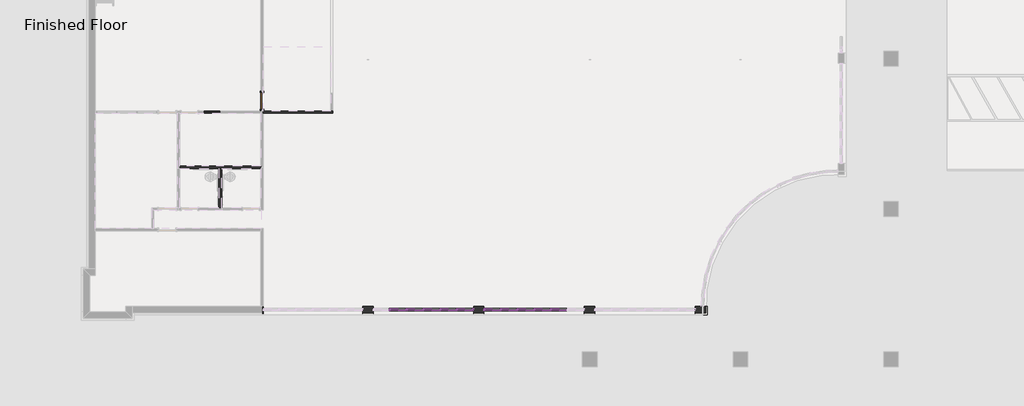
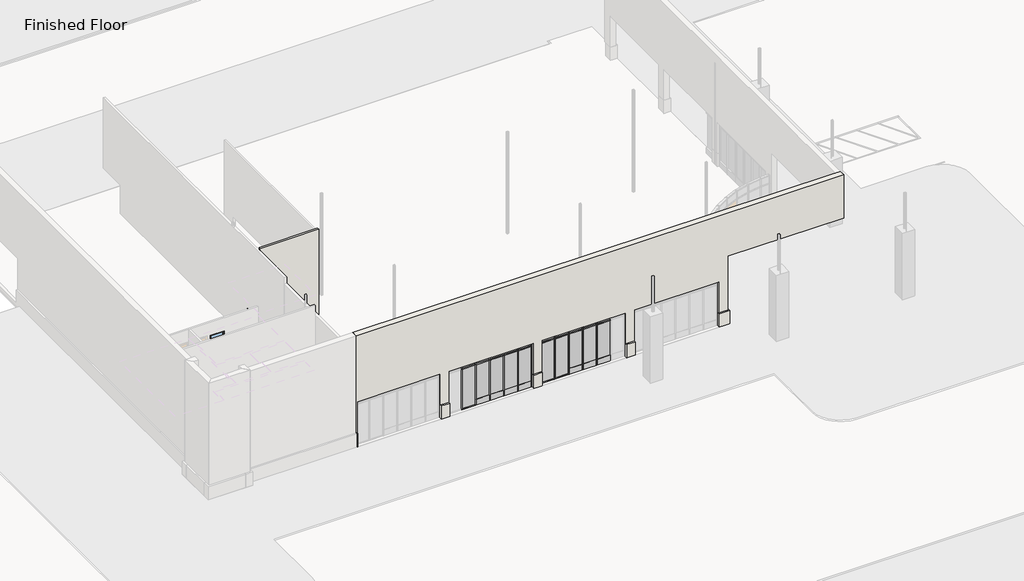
# One storey, part 2 of 7: 52 members, 20 plates, 5 walls, 1 door, 1 window.
"""IFC4 building model written with IfcOpenShell, lengths in millimetres."""

from ifc_helpers import new_model, si_unit, point, frame, origin, origin_with_axes, place, context, project, spatial, polyline, circle_curve, ellipse_curve, trimmed, outline, extrude, faceted_brep, transform, mapped, element, save
from ifc_brep_helpers import plane_surface, revolved_surface, advanced_brep
from components import door_9814c99b, member_d2e7e466, member_7db1855a, member_069002c8, member_a75f139a, member_8a16213d, member_a608d019, member_c17f1be2, member_ad567e07, rectangular_mullion_tall_mullion_dc5872ae, rectangular_mullion_tall_mullion_643de06f, system_panel_glazed_00e77426, system_panel_glazed_d5ca8191, system_panel_glazed_9d8b6f53, system_panel_glazed_0eb5479c, system_panel_glazed_0c1d7574, system_panel_glazed_61942ae4, window_51f22951

model = new_model("IFC4")

# Units and contexts
model_context = context("Model", 3, world=origin())
ifc_project = project(units=[si_unit("LENGTHUNIT", "METRE", prefix="MILLI")], contexts=[model_context])

# Site, building, storey
site = spatial("IfcSite", under=ifc_project)
building = spatial("IfcBuilding", under=site)
storey = spatial("IfcBuildingStorey", under=building, Name="Finished Floor", Elevation=0.0)

# Door
placement = place(None, origin())
door_shape = door_9814c99b(model_context)
element("IfcDoor", 1, ObjectType="Single-Flush : 36\" x 84\" 20Min", at=placement, inside=storey, context=model_context, shape_type="MappedRepresentation", body=[
    mapped(door_shape, transform((-12953.2102721, -2830.0875557, 0.0), x_axis=(0.0, -1.0, 0.0), y_axis=(1.0, 0.0, 0.0), z_axis=(0.0, 0.0, 1.0))),
])

# Members
member_shape = member_d2e7e466(model_context)
element("IfcMember", 2, ObjectType="Rectangular Mullion : 2.5\" x 5\" rectangular", at=placement, inside=storey, context=model_context, shape_type="MappedRepresentation", body=[
    mapped(member_shape, transform((2836.0647279, -14230.7188057, 3048.0), x_axis=(0.0, 0.0, 1.0), y_axis=(0.0, 1.0, 0.0), z_axis=(-1.0, 0.0, 0.0))),
])
element("IfcMember", 3, ObjectType="Rectangular Mullion : 2.5\" x 5\" rectangular", at=placement, inside=storey, context=model_context, shape_type="MappedRepresentation", body=[
    mapped(member_shape, transform((1921.6647279, -14230.7188057, 3048.0), x_axis=(0.0, 0.0, 1.0), y_axis=(0.0, 1.0, 0.0), z_axis=(-1.0, 0.0, 0.0))),
])
element("IfcMember", 4, ObjectType="Rectangular Mullion : 2.5\" x 5\" rectangular", at=placement, inside=storey, context=model_context, shape_type="MappedRepresentation", body=[
    mapped(member_shape, transform((-3209.1352721, -14230.7188057, 3048.0), x_axis=(0.0, 0.0, 1.0), y_axis=(0.0, 1.0, 0.0), z_axis=(-1.0, 0.0, 0.0))),
])
element("IfcMember", 5, ObjectType="Rectangular Mullion : 2.5\" x 5\" rectangular", at=placement, inside=storey, context=model_context, shape_type="MappedRepresentation", body=[
    mapped(member_shape, transform((-4123.5352721, -14230.7188057, 3048.0), x_axis=(0.0, 0.0, 1.0), y_axis=(0.0, 1.0, 0.0), z_axis=(-1.0, 0.0, 0.0))),
])
element("IfcMember", 6, ObjectType="Rectangular Mullion : 2.5\" x 5\" rectangular", at=placement, inside=storey, context=model_context, shape_type="MappedRepresentation", body=[
    mapped(member_shape, transform((1007.2647279, -14230.7188057, 3048.0), x_axis=(0.0, 0.0, 1.0), y_axis=(0.0, 1.0, 0.0), z_axis=(-1.0, 0.0, 0.0))),
])
element("IfcMember", 7, ObjectType="Rectangular Mullion : 2.5\" x 5\" rectangular", at=placement, inside=storey, context=model_context, shape_type="MappedRepresentation", body=[
    mapped(member_shape, transform((92.8647279, -14230.7188057, 3048.0), x_axis=(0.0, 0.0, 1.0), y_axis=(0.0, 1.0, 0.0), z_axis=(-1.0, 0.0, 0.0))),
])
element("IfcMember", 8, ObjectType="Rectangular Mullion : 2.5\" x 5\" rectangular", at=placement, inside=storey, context=model_context, shape_type="MappedRepresentation", body=[
    mapped(member_shape, transform((-5037.9352721, -14230.7188057, 3048.0), x_axis=(0.0, 0.0, 1.0), y_axis=(0.0, 1.0, 0.0), z_axis=(-1.0, 0.0, 0.0))),
])
element("IfcMember", 9, ObjectType="Rectangular Mullion : 2.5\" x 5\" rectangular", at=placement, inside=storey, context=model_context, shape_type="MappedRepresentation", body=[
    mapped(member_shape, transform((-5952.3352721, -14230.7188057, 3048.0), x_axis=(0.0, 0.0, 1.0), y_axis=(0.0, 1.0, 0.0), z_axis=(-1.0, 0.0, 0.0))),
])
member_2_shape = member_7db1855a(model_context)
element("IfcMember", 10, ObjectType="Rectangular Mullion : 2.5\" x 5\" rectangular", at=placement, inside=storey, context=model_context, shape_type="MappedRepresentation", body=[
    mapped(member_2_shape, transform((2836.0647279, -14230.7188057, 2813.05), x_axis=(0.0, 0.0, 1.0), y_axis=(0.0, 1.0, 0.0), z_axis=(-1.0, 0.0, 0.0))),
])
element("IfcMember", 11, ObjectType="Rectangular Mullion : 2.5\" x 5\" rectangular", at=placement, inside=storey, context=model_context, shape_type="MappedRepresentation", body=[
    mapped(member_2_shape, transform((1921.6647279, -14230.7188057, 2813.05), x_axis=(0.0, 0.0, 1.0), y_axis=(0.0, 1.0, 0.0), z_axis=(-1.0, 0.0, 0.0))),
])
element("IfcMember", 12, ObjectType="Rectangular Mullion : 2.5\" x 5\" rectangular", at=placement, inside=storey, context=model_context, shape_type="MappedRepresentation", body=[
    mapped(member_2_shape, transform((1007.2647279, -14230.7188057, 2813.05), x_axis=(0.0, 0.0, 1.0), y_axis=(0.0, 1.0, 0.0), z_axis=(-1.0, 0.0, 0.0))),
])
element("IfcMember", 13, ObjectType="Rectangular Mullion : 2.5\" x 5\" rectangular", at=placement, inside=storey, context=model_context, shape_type="MappedRepresentation", body=[
    mapped(member_2_shape, transform((-3209.1352721, -14230.7188057, 2813.05), x_axis=(0.0, 0.0, 1.0), y_axis=(0.0, 1.0, 0.0), z_axis=(-1.0, 0.0, 0.0))),
])
element("IfcMember", 14, ObjectType="Rectangular Mullion : 2.5\" x 5\" rectangular", at=placement, inside=storey, context=model_context, shape_type="MappedRepresentation", body=[
    mapped(member_2_shape, transform((-4123.5352721, -14230.7188057, 2813.05), x_axis=(0.0, 0.0, 1.0), y_axis=(0.0, 1.0, 0.0), z_axis=(-1.0, 0.0, 0.0))),
])
element("IfcMember", 15, ObjectType="Rectangular Mullion : 2.5\" x 5\" rectangular", at=placement, inside=storey, context=model_context, shape_type="MappedRepresentation", body=[
    mapped(member_2_shape, transform((92.8647279, -14230.7188057, 2813.05), x_axis=(0.0, 0.0, 1.0), y_axis=(0.0, 1.0, 0.0), z_axis=(-1.0, 0.0, 0.0))),
])
element("IfcMember", 16, ObjectType="Rectangular Mullion : 2.5\" x 5\" rectangular", at=placement, inside=storey, context=model_context, shape_type="MappedRepresentation", body=[
    mapped(member_2_shape, transform((-5952.3352721, -14230.7188057, 2813.05), x_axis=(0.0, 0.0, 1.0), y_axis=(0.0, 1.0, 0.0), z_axis=(-1.0, 0.0, 0.0))),
])
element("IfcMember", 17, ObjectType="Rectangular Mullion : 2.5\" x 5\" rectangular", at=placement, inside=storey, context=model_context, shape_type="MappedRepresentation", body=[
    mapped(member_shape, transform((943.7647279, -14230.7188057, 0.0), x_axis=(0.0, 0.0, -1.0), y_axis=(0.0, 1.0, 0.0), z_axis=(1.0, 0.0, 0.0))),
])
element("IfcMember", 18, ObjectType="Rectangular Mullion : 2.5\" x 5\" rectangular", at=placement, inside=storey, context=model_context, shape_type="MappedRepresentation", body=[
    mapped(member_shape, transform((-5101.4352721, -14230.7188057, 0.0), x_axis=(0.0, 0.0, -1.0), y_axis=(0.0, 1.0, 0.0), z_axis=(1.0, 0.0, 0.0))),
])
member_3_shape = member_069002c8(model_context)
element("IfcMember", 19, ObjectType="Rectangular Mullion : 2.5\" x 5\" rectangular", at=placement, inside=storey, context=model_context, shape_type="MappedRepresentation", body=[
    mapped(member_3_shape, transform((2804.3147279, -14230.7188057, 0.0), x_axis=(-1.0, 0.0, 0.0), y_axis=(0.0, 1.0, 0.0), z_axis=(0.0, 0.0, -1.0))),
])
element("IfcMember", 20, ObjectType="Rectangular Mullion : 2.5\" x 5\" rectangular", at=placement, inside=storey, context=model_context, shape_type="MappedRepresentation", body=[
    mapped(member_3_shape, transform((1889.9147279, -14230.7188057, 0.0), x_axis=(-1.0, 0.0, 0.0), y_axis=(0.0, 1.0, 0.0), z_axis=(0.0, 0.0, -1.0))),
])
element("IfcMember", 21, ObjectType="Rectangular Mullion : 2.5\" x 5\" rectangular", at=placement, inside=storey, context=model_context, shape_type="MappedRepresentation", body=[
    mapped(member_3_shape, transform((-2326.4852721, -14230.7188057, 0.0), x_axis=(-1.0, 0.0, 0.0), y_axis=(0.0, 1.0, 0.0), z_axis=(0.0, 0.0, -1.0))),
])
element("IfcMember", 22, ObjectType="Rectangular Mullion : 2.5\" x 5\" rectangular", at=placement, inside=storey, context=model_context, shape_type="MappedRepresentation", body=[
    mapped(member_3_shape, transform((-3240.8852721, -14230.7188057, 0.0), x_axis=(-1.0, 0.0, 0.0), y_axis=(0.0, 1.0, 0.0), z_axis=(0.0, 0.0, -1.0))),
])
element("IfcMember", 23, ObjectType="Rectangular Mullion : 2.5\" x 5\" rectangular", at=placement, inside=storey, context=model_context, shape_type="MappedRepresentation", body=[
    mapped(member_3_shape, transform((-4155.2852721, -14230.7188057, 0.0), x_axis=(-1.0, 0.0, 0.0), y_axis=(0.0, 1.0, 0.0), z_axis=(0.0, 0.0, -1.0))),
])
element("IfcMember", 24, ObjectType="Rectangular Mullion : 2.5\" x 5\" rectangular", at=placement, inside=storey, context=model_context, shape_type="MappedRepresentation", body=[
    mapped(member_3_shape, transform((975.5147279, -14230.7188057, 0.0), x_axis=(-1.0, 0.0, 0.0), y_axis=(0.0, 1.0, 0.0), z_axis=(0.0, 0.0, -1.0))),
])
element("IfcMember", 25, ObjectType="Rectangular Mullion : 2.5\" x 5\" rectangular", at=placement, inside=storey, context=model_context, shape_type="MappedRepresentation", body=[
    mapped(member_3_shape, transform((61.1147279, -14230.7188057, 0.0), x_axis=(-1.0, 0.0, 0.0), y_axis=(0.0, 1.0, 0.0), z_axis=(0.0, 0.0, -1.0))),
])
element("IfcMember", 26, ObjectType="Rectangular Mullion : 2.5\" x 5\" rectangular", at=placement, inside=storey, context=model_context, shape_type="MappedRepresentation", body=[
    mapped(member_3_shape, transform((-5069.6852721, -14230.7188057, 0.0), x_axis=(-1.0, 0.0, 0.0), y_axis=(0.0, 1.0, 0.0), z_axis=(0.0, 0.0, -1.0))),
])
element("IfcMember", 27, ObjectType="Rectangular Mullion : 2.5\" x 5\" rectangular", at=placement, inside=storey, context=model_context, shape_type="MappedRepresentation", body=[
    mapped(member_3_shape, transform((-5984.0852721, -14230.7188057, 0.0), x_axis=(-1.0, 0.0, 0.0), y_axis=(0.0, 1.0, 0.0), z_axis=(0.0, 0.0, -1.0))),
])
member_4_shape = member_a75f139a(model_context)
element("IfcMember", 28, ObjectType="Rectangular Mullion : 2.5\" x 5\" rectangular", at=placement, inside=storey, context=model_context, shape_type="MappedRepresentation", body=[
    mapped(member_4_shape, transform((2804.3147279, -14230.7188057, 2813.05), x_axis=(-1.0, 0.0, 0.0), y_axis=(0.0, 1.0, 0.0), z_axis=(0.0, 0.0, -1.0))),
])
element("IfcMember", 29, ObjectType="Rectangular Mullion : 2.5\" x 5\" rectangular", at=placement, inside=storey, context=model_context, shape_type="MappedRepresentation", body=[
    mapped(member_4_shape, transform((1889.9147279, -14230.7188057, 2813.05), x_axis=(-1.0, 0.0, 0.0), y_axis=(0.0, 1.0, 0.0), z_axis=(0.0, 0.0, -1.0))),
])
element("IfcMember", 30, ObjectType="Rectangular Mullion : 2.5\" x 5\" rectangular", at=placement, inside=storey, context=model_context, shape_type="MappedRepresentation", body=[
    mapped(member_4_shape, transform((-2326.4852721, -14230.7188057, 2813.05), x_axis=(-1.0, 0.0, 0.0), y_axis=(0.0, 1.0, 0.0), z_axis=(0.0, 0.0, -1.0))),
])
element("IfcMember", 31, ObjectType="Rectangular Mullion : 2.5\" x 5\" rectangular", at=placement, inside=storey, context=model_context, shape_type="MappedRepresentation", body=[
    mapped(member_4_shape, transform((-3240.8852721, -14230.7188057, 2813.05), x_axis=(-1.0, 0.0, 0.0), y_axis=(0.0, 1.0, 0.0), z_axis=(0.0, 0.0, -1.0))),
])
element("IfcMember", 32, ObjectType="Rectangular Mullion : 2.5\" x 5\" rectangular", at=placement, inside=storey, context=model_context, shape_type="MappedRepresentation", body=[
    mapped(member_4_shape, transform((-4155.2852721, -14230.7188057, 2813.05), x_axis=(-1.0, 0.0, 0.0), y_axis=(0.0, 1.0, 0.0), z_axis=(0.0, 0.0, -1.0))),
])
element("IfcMember", 33, ObjectType="Rectangular Mullion : 2.5\" x 5\" rectangular", at=placement, inside=storey, context=model_context, shape_type="MappedRepresentation", body=[
    mapped(member_4_shape, transform((975.5147279, -14230.7188057, 2813.05), x_axis=(-1.0, 0.0, 0.0), y_axis=(0.0, 1.0, 0.0), z_axis=(0.0, 0.0, -1.0))),
])
element("IfcMember", 34, ObjectType="Rectangular Mullion : 2.5\" x 5\" rectangular", at=placement, inside=storey, context=model_context, shape_type="MappedRepresentation", body=[
    mapped(member_4_shape, transform((61.1147279, -14230.7188057, 2813.05), x_axis=(-1.0, 0.0, 0.0), y_axis=(0.0, 1.0, 0.0), z_axis=(0.0, 0.0, -1.0))),
])
element("IfcMember", 35, ObjectType="Rectangular Mullion : 2.5\" x 5\" rectangular", at=placement, inside=storey, context=model_context, shape_type="MappedRepresentation", body=[
    mapped(member_4_shape, transform((-5069.6852721, -14230.7188057, 2813.05), x_axis=(-1.0, 0.0, 0.0), y_axis=(0.0, 1.0, 0.0), z_axis=(0.0, 0.0, -1.0))),
])
element("IfcMember", 36, ObjectType="Rectangular Mullion : 2.5\" x 5\" rectangular", at=placement, inside=storey, context=model_context, shape_type="MappedRepresentation", body=[
    mapped(member_4_shape, transform((-5984.0852721, -14230.7188057, 2813.05), x_axis=(-1.0, 0.0, 0.0), y_axis=(0.0, 1.0, 0.0), z_axis=(0.0, 0.0, -1.0))),
])
member_5_shape = member_8a16213d(model_context)
element("IfcMember", 37, ObjectType="Rectangular Mullion : 2.5\" x 5\" rectangular", at=placement, inside=storey, context=model_context, shape_type="MappedRepresentation", body=[
    mapped(member_5_shape, transform((-853.2852721, -14230.7188057, 0.0), x_axis=(-1.0, 0.0, 0.0), y_axis=(0.0, 1.0, 0.0), z_axis=(0.0, 0.0, -1.0))),
])
member_6_shape = member_a608d019(model_context)
element("IfcMember", 38, ObjectType="Rectangular Mullion : 2.5\" x 5\" rectangular", at=placement, inside=storey, context=model_context, shape_type="MappedRepresentation", body=[
    mapped(member_6_shape, transform((-853.2852721, -14230.7188057, 2813.05), x_axis=(-1.0, 0.0, 0.0), y_axis=(0.0, 1.0, 0.0), z_axis=(0.0, 0.0, -1.0))),
])
element("IfcMember", 39, ObjectType="Rectangular Mullion : 2.5\" x 5\" rectangular", at=placement, inside=storey, context=model_context, shape_type="MappedRepresentation", body=[
    mapped(member_6_shape, transform((-1412.0852721, -14230.7188057, 3048.0), x_axis=(1.0, 0.0, 0.0), y_axis=(0.0, 1.0, 0.0), z_axis=(0.0, 0.0, 1.0))),
])
element("IfcMember", 40, ObjectType="Rectangular Mullion : 2.5\" x 5\" rectangular", at=placement, inside=storey, context=model_context, shape_type="MappedRepresentation", body=[
    mapped(member_5_shape, transform((-1412.0852721, -14230.7188057, 2813.05), x_axis=(1.0, 0.0, 0.0), y_axis=(0.0, 1.0, 0.0), z_axis=(0.0, 0.0, 1.0))),
])
member_7_shape = member_c17f1be2(model_context)
element("IfcMember", 41, ObjectType="Rectangular Mullion : 2.5\" x 5\" rectangular", at=placement, inside=storey, context=model_context, shape_type="MappedRepresentation", body=[
    mapped(member_7_shape, transform((-789.7852721, -14230.7188057, 3048.0), x_axis=(0.0, 0.0, 1.0), y_axis=(0.0, 1.0, 0.0), z_axis=(-1.0, 0.0, 0.0))),
])
element("IfcMember", 42, ObjectType="Rectangular Mullion : 2.5\" x 5\" rectangular", at=placement, inside=storey, context=model_context, shape_type="MappedRepresentation", body=[
    mapped(member_7_shape, transform((3750.4647279, -14230.7188057, 3048.0), x_axis=(0.0, 0.0, 1.0), y_axis=(0.0, 1.0, 0.0), z_axis=(-1.0, 0.0, 0.0))),
])
element("IfcMember", 43, ObjectType="Rectangular Mullion : 2.5\" x 5\" rectangular", at=placement, inside=storey, context=model_context, shape_type="MappedRepresentation", body=[
    mapped(member_7_shape, transform((-2294.7352721, -14230.7188057, 3048.0), x_axis=(0.0, 0.0, 1.0), y_axis=(0.0, 1.0, 0.0), z_axis=(-1.0, 0.0, 0.0))),
])
member_8_shape = member_ad567e07(model_context)
element("IfcMember", 44, ObjectType="Rectangular Mullion : 2.5\" x 5\" rectangular", at=placement, inside=storey, context=model_context, shape_type="MappedRepresentation", body=[
    mapped(member_8_shape, transform((-2294.7352721, -14230.7188057, 2813.05), x_axis=(0.0, 0.0, 1.0), y_axis=(0.0, 1.0, 0.0), z_axis=(-1.0, 0.0, 0.0))),
])
element("IfcMember", 45, ObjectType="Rectangular Mullion : 2.5\" x 5\" rectangular", at=placement, inside=storey, context=model_context, shape_type="MappedRepresentation", body=[
    mapped(member_8_shape, transform((-789.7852721, -14230.7188057, 2813.05), x_axis=(0.0, 0.0, 1.0), y_axis=(0.0, 1.0, 0.0), z_axis=(-1.0, 0.0, 0.0))),
])
element("IfcMember", 46, ObjectType="Rectangular Mullion : 2.5\" x 5\" rectangular", at=placement, inside=storey, context=model_context, shape_type="MappedRepresentation", body=[
    mapped(member_7_shape, transform((29.3647279, -14230.7188057, 0.0), x_axis=(0.0, 0.0, -1.0), y_axis=(0.0, 1.0, 0.0), z_axis=(1.0, 0.0, 0.0))),
])
rectangular_mullion_tall_mullion_shape = rectangular_mullion_tall_mullion_dc5872ae(model_context)
element("IfcMember", 47, ObjectType="Rectangular Mullion : Tall Mullion", at=placement, inside=storey, context=model_context, shape_type="MappedRepresentation", body=[
    mapped(rectangular_mullion_tall_mullion_shape, transform((3686.9647279, -14230.7188057, 0.0), x_axis=(0.0, 0.0, -1.0), y_axis=(0.0, 1.0, 0.0), z_axis=(1.0, 0.0, 0.0))),
])
element("IfcMember", 48, ObjectType="Rectangular Mullion : Tall Mullion", at=placement, inside=storey, context=model_context, shape_type="MappedRepresentation", body=[
    mapped(rectangular_mullion_tall_mullion_shape, transform((2772.5647279, -14230.7188057, 0.0), x_axis=(0.0, 0.0, -1.0), y_axis=(0.0, 1.0, 0.0), z_axis=(1.0, 0.0, 0.0))),
])
element("IfcMember", 49, ObjectType="Rectangular Mullion : Tall Mullion", at=placement, inside=storey, context=model_context, shape_type="MappedRepresentation", body=[
    mapped(rectangular_mullion_tall_mullion_shape, transform((1858.1647279, -14230.7188057, 0.0), x_axis=(0.0, 0.0, -1.0), y_axis=(0.0, 1.0, 0.0), z_axis=(1.0, 0.0, 0.0))),
])
element("IfcMember", 50, ObjectType="Rectangular Mullion : Tall Mullion", at=placement, inside=storey, context=model_context, shape_type="MappedRepresentation", body=[
    mapped(rectangular_mullion_tall_mullion_shape, transform((-2358.2352721, -14230.7188057, 0.0), x_axis=(0.0, 0.0, -1.0), y_axis=(0.0, 1.0, 0.0), z_axis=(1.0, 0.0, 0.0))),
])
element("IfcMember", 51, ObjectType="Rectangular Mullion : Tall Mullion", at=placement, inside=storey, context=model_context, shape_type="MappedRepresentation", body=[
    mapped(rectangular_mullion_tall_mullion_shape, transform((-3272.6352721, -14230.7188057, 0.0), x_axis=(0.0, 0.0, -1.0), y_axis=(0.0, 1.0, 0.0), z_axis=(1.0, 0.0, 0.0))),
])
element("IfcMember", 52, ObjectType="Rectangular Mullion : Tall Mullion", at=placement, inside=storey, context=model_context, shape_type="MappedRepresentation", body=[
    mapped(rectangular_mullion_tall_mullion_shape, transform((-4187.0352721, -14230.7188057, 0.0), x_axis=(0.0, 0.0, -1.0), y_axis=(0.0, 1.0, 0.0), z_axis=(1.0, 0.0, 0.0))),
])
rectangular_mullion_tall_mullion_2_shape = rectangular_mullion_tall_mullion_643de06f(model_context)
element("IfcMember", 53, ObjectType="Rectangular Mullion : Tall Mullion", at=placement, inside=storey, context=model_context, shape_type="MappedRepresentation", body=[
    mapped(rectangular_mullion_tall_mullion_2_shape, transform((-1475.5852721, -14230.7188057, 0.0), x_axis=(0.0, 0.0, -1.0), y_axis=(0.0, 1.0, 0.0), z_axis=(1.0, 0.0, 0.0))),
])

# Plates
system_panel_glazed_shape = system_panel_glazed_00e77426(model_context)
element("IfcPlate", 54, ObjectType="System Panel : Glazed", at=placement, inside=storey, context=model_context, shape_type="MappedRepresentation", body=[
    mapped(system_panel_glazed_shape, transform((3261.5147279, -14230.7188057, 406.4), x_axis=(-1.0, 0.0, 0.0), y_axis=(0.0, -1.0, 0.0), z_axis=(0.0, 0.0, 1.0))),
])
element("IfcPlate", 55, ObjectType="System Panel : Glazed", at=placement, inside=storey, context=model_context, shape_type="MappedRepresentation", body=[
    mapped(system_panel_glazed_shape, transform((2347.1147279, -14230.7188057, 406.4), x_axis=(-1.0, 0.0, 0.0), y_axis=(0.0, -1.0, 0.0), z_axis=(0.0, 0.0, 1.0))),
])
element("IfcPlate", 56, ObjectType="System Panel : Glazed", at=placement, inside=storey, context=model_context, shape_type="MappedRepresentation", body=[
    mapped(system_panel_glazed_shape, transform((1432.7147279, -14230.7188057, 406.4), x_axis=(-1.0, 0.0, 0.0), y_axis=(0.0, -1.0, 0.0), z_axis=(0.0, 0.0, 1.0))),
])
element("IfcPlate", 57, ObjectType="System Panel : Glazed", at=placement, inside=storey, context=model_context, shape_type="MappedRepresentation", body=[
    mapped(system_panel_glazed_shape, transform((-2783.6852721, -14230.7188057, 406.4), x_axis=(-1.0, 0.0, 0.0), y_axis=(0.0, -1.0, 0.0), z_axis=(0.0, 0.0, 1.0))),
])
element("IfcPlate", 58, ObjectType="System Panel : Glazed", at=placement, inside=storey, context=model_context, shape_type="MappedRepresentation", body=[
    mapped(system_panel_glazed_shape, transform((-3698.0852721, -14230.7188057, 406.4), x_axis=(-1.0, 0.0, 0.0), y_axis=(0.0, -1.0, 0.0), z_axis=(0.0, 0.0, 1.0))),
])
element("IfcPlate", 59, ObjectType="System Panel : Glazed", at=placement, inside=storey, context=model_context, shape_type="MappedRepresentation", body=[
    mapped(system_panel_glazed_shape, transform((-4612.4852721, -14230.7188057, 406.4), x_axis=(-1.0, 0.0, 0.0), y_axis=(0.0, -1.0, 0.0), z_axis=(0.0, 0.0, 1.0))),
])
system_panel_glazed_2_shape = system_panel_glazed_d5ca8191(model_context)
element("IfcPlate", 60, ObjectType="System Panel : Glazed", at=placement, inside=storey, context=model_context, shape_type="MappedRepresentation", body=[
    mapped(system_panel_glazed_2_shape, transform((3261.5147279, -14230.7188057, 2844.8), x_axis=(-1.0, 0.0, 0.0), y_axis=(0.0, -1.0, 0.0), z_axis=(0.0, 0.0, 1.0))),
])
element("IfcPlate", 61, ObjectType="System Panel : Glazed", at=placement, inside=storey, context=model_context, shape_type="MappedRepresentation", body=[
    mapped(system_panel_glazed_2_shape, transform((2347.1147279, -14230.7188057, 2844.8), x_axis=(-1.0, 0.0, 0.0), y_axis=(0.0, -1.0, 0.0), z_axis=(0.0, 0.0, 1.0))),
])
element("IfcPlate", 62, ObjectType="System Panel : Glazed", at=placement, inside=storey, context=model_context, shape_type="MappedRepresentation", body=[
    mapped(system_panel_glazed_2_shape, transform((1432.7147279, -14230.7188057, 2844.8), x_axis=(-1.0, 0.0, 0.0), y_axis=(0.0, -1.0, 0.0), z_axis=(0.0, 0.0, 1.0))),
])
element("IfcPlate", 63, ObjectType="System Panel : Glazed", at=placement, inside=storey, context=model_context, shape_type="MappedRepresentation", body=[
    mapped(system_panel_glazed_2_shape, transform((-2783.6852721, -14230.7188057, 2844.8), x_axis=(-1.0, 0.0, 0.0), y_axis=(0.0, -1.0, 0.0), z_axis=(0.0, 0.0, 1.0))),
])
element("IfcPlate", 64, ObjectType="System Panel : Glazed", at=placement, inside=storey, context=model_context, shape_type="MappedRepresentation", body=[
    mapped(system_panel_glazed_2_shape, transform((-3698.0852721, -14230.7188057, 2844.8), x_axis=(-1.0, 0.0, 0.0), y_axis=(0.0, -1.0, 0.0), z_axis=(0.0, 0.0, 1.0))),
])
element("IfcPlate", 65, ObjectType="System Panel : Glazed", at=placement, inside=storey, context=model_context, shape_type="MappedRepresentation", body=[
    mapped(system_panel_glazed_2_shape, transform((-4612.4852721, -14230.7188057, 2844.8), x_axis=(-1.0, 0.0, 0.0), y_axis=(0.0, -1.0, 0.0), z_axis=(0.0, 0.0, 1.0))),
])
element("IfcPlate", 66, ObjectType="System Panel : Glazed", at=placement, inside=storey, context=model_context, shape_type="MappedRepresentation", body=[
    mapped(system_panel_glazed_2_shape, transform((518.3147279, -14230.7188057, 2844.8), x_axis=(-1.0, 0.0, 0.0), y_axis=(0.0, -1.0, 0.0), z_axis=(0.0, 0.0, 1.0))),
])
element("IfcPlate", 67, ObjectType="System Panel : Glazed", at=placement, inside=storey, context=model_context, shape_type="MappedRepresentation", body=[
    mapped(system_panel_glazed_2_shape, transform((-5526.8852721, -14230.7188057, 2844.8), x_axis=(-1.0, 0.0, 0.0), y_axis=(0.0, -1.0, 0.0), z_axis=(0.0, 0.0, 1.0))),
])
system_panel_glazed_3_shape = system_panel_glazed_9d8b6f53(model_context)
element("IfcPlate", 68, ObjectType="System Panel : Glazed", at=placement, inside=storey, context=model_context, shape_type="MappedRepresentation", body=[
    mapped(system_panel_glazed_3_shape, transform((518.3147279, -14230.7188057, 63.5), x_axis=(-1.0, 0.0, 0.0), y_axis=(0.0, -1.0, 0.0), z_axis=(0.0, 0.0, 1.0))),
])
element("IfcPlate", 69, ObjectType="System Panel : Glazed", at=placement, inside=storey, context=model_context, shape_type="MappedRepresentation", body=[
    mapped(system_panel_glazed_3_shape, transform((-5526.8852721, -14230.7188057, 63.5), x_axis=(-1.0, 0.0, 0.0), y_axis=(0.0, -1.0, 0.0), z_axis=(0.0, 0.0, 1.0))),
])
system_panel_glazed_4_shape = system_panel_glazed_0eb5479c(model_context)
element("IfcPlate", 70, ObjectType="System Panel : Glazed", at=placement, inside=storey, context=model_context, shape_type="MappedRepresentation", body=[
    mapped(system_panel_glazed_4_shape, transform((-1885.1602721, -14230.7188057, 406.4), x_axis=(-1.0, 0.0, 0.0), y_axis=(0.0, -1.0, 0.0), z_axis=(0.0, 0.0, 1.0))),
])
system_panel_glazed_5_shape = system_panel_glazed_0c1d7574(model_context)
element("IfcPlate", 71, ObjectType="System Panel : Glazed", at=placement, inside=storey, context=model_context, shape_type="MappedRepresentation", body=[
    mapped(system_panel_glazed_5_shape, transform((-1885.1602721, -14230.7188057, 2844.8), x_axis=(-1.0, 0.0, 0.0), y_axis=(0.0, -1.0, 0.0), z_axis=(0.0, 0.0, 1.0))),
])
element("IfcPlate", 72, ObjectType="System Panel : Glazed", at=placement, inside=storey, context=model_context, shape_type="MappedRepresentation", body=[
    mapped(system_panel_glazed_5_shape, transform((-380.2102721, -14230.7188057, 2844.8), x_axis=(-1.0, 0.0, 0.0), y_axis=(0.0, -1.0, 0.0), z_axis=(0.0, 0.0, 1.0))),
])
system_panel_glazed_6_shape = system_panel_glazed_61942ae4(model_context)
element("IfcPlate", 73, ObjectType="System Panel : Glazed", at=placement, inside=storey, context=model_context, shape_type="MappedRepresentation", body=[
    mapped(system_panel_glazed_6_shape, transform((-380.2102721, -14230.7188057, 63.5), x_axis=(-1.0, 0.0, 0.0), y_axis=(0.0, -1.0, 0.0), z_axis=(0.0, 0.0, 1.0))),
])

# Walls
element("IfcWall", 74, ObjectType="Exterior - Brick on Mtl. Stud", at=placement, inside=storey, context=model_context, shape_type="AdvancedBrep", body=[
    advanced_brep(
    [(-12953.2102721, -14054.5063057, 7620.0), (18477.7022279, -14054.5063057, 7620.0), (18830.1272279, -14054.5063057, 7620.0), (18830.1272279, -14054.5063057, 4625.5040439), (18477.7022279, -14054.5063057, 4625.5040439), (11260.9272279, -14054.5063057, 4625.5040439), (11260.9272279, -14054.5063057, 3048.0), (11260.9272279, -14054.5063057, 914.4), (10678.3147279, -14054.5063057, 914.4), (10678.3147279, -14054.5063057, 3048.0), (5191.9147279, -14054.5063057, 3048.0), (5191.9147279, -14054.5063057, 914.4), (4633.1147279, -14054.5063057, 914.4), (4633.1147279, -14054.5063057, 3048.0), (-853.2852721, -14054.5063057, 3048.0), (-853.2852721, -14054.5063057, 914.4), (-1412.0852721, -14054.5063057, 914.4), (-1412.0852721, -14054.5063057, 3048.0), (-6898.4852721, -14054.5063057, 3048.0), (-6898.4852721, -14054.5063057, 914.4), (-7457.2852721, -14054.5063057, 914.4), (-7457.2852721, -14054.5063057, 3048.0), (-12883.3602721, -14054.5063057, 3048.0), (-12883.3602721, -14054.5063057, 914.4), (-12953.2102721, -14054.5063057, 914.4), (18830.1272279, -14406.9313057, 7620.0), (-12953.2102721, -14406.9313057, 7620.0), (-12953.2102721, -14406.9313057, 914.4), (-12883.3602721, -14406.9313057, 914.4), (-12883.3602721, -14406.9313057, 3048.0), (-7457.2852721, -14406.9313057, 3048.0), (-7457.2852721, -14406.9313057, 914.4), (-6898.4852721, -14406.9313057, 914.4), (-6898.4852721, -14406.9313057, 3048.0), (-1412.0852721, -14406.9313057, 3048.0), (-1412.0852721, -14406.9313057, 914.4), (-853.2852721, -14406.9313057, 914.4), (-853.2852721, -14406.9313057, 3048.0), (4633.1147279, -14406.9313057, 3048.0), (4633.1147279, -14406.9313057, 914.4), (5191.9147279, -14406.9313057, 914.4), (5191.9147279, -14406.9313057, 3048.0), (10678.3147279, -14406.9313057, 3048.0), (10678.3147279, -14406.9313057, 914.4), (11269.5375503, -14406.9313057, 914.4), (11269.5375503, -14406.9313057, 4625.5040439), (18830.1272279, -14406.9313057, 4625.5040439), (-12953.2102721, -14397.4063057, 914.4)],
    [
        (0, 1),
        (1, 2),
        (2, 3),
        (3, 4),
        (4, 5),
        (5, 6),
        (6, 7),
        (7, 8),
        (8, 9),
        (9, 10),
        (10, 11),
        (11, 12),
        (12, 13),
        (13, 14),
        (14, 15),
        (15, 16),
        (16, 17),
        (17, 18),
        (18, 19),
        (19, 20),
        (20, 21),
        (21, 22),
        (22, 23),
        (23, 24),
        (24, 0),
        (25, 26),
        (26, 27),
        (27, 28),
        (28, 29),
        (29, 30),
        (30, 31),
        (31, 32),
        (32, 33),
        (33, 34),
        (34, 35),
        (35, 36),
        (36, 37),
        (37, 38),
        (38, 39),
        (39, 40),
        (40, 41),
        (41, 42),
        (42, 43),
        (43, 44),
        (44, 45),
        (45, 46),
        (46, 25),
        (42, 9),
        (8, 43),
        (41, 10),
        (40, 11),
        (30, 21),
        (20, 31),
        (29, 22),
        (28, 23),
        (38, 13),
        (12, 39),
        (37, 14),
        (36, 15),
        (34, 17),
        (16, 35),
        (33, 18),
        (32, 19),
        (0, 26),
        (25, 2),
        (7, 44, circle_curve(frame((18477.7022279, -14054.5063057, 914.4), z_axis=(0.0, 0.0, 1.0), x_axis=(1.0, 0.0, 0.0)), 7216.775)),
        (27, 47),
        (47, 24),
        (3, 46),
        (45, 5, circle_curve(frame((18477.7022279, -14054.5063057, 4625.5040439), z_axis=(0.0, 0.0, -1.0), x_axis=(1.0, 0.0, 0.0)), 7216.775)),
    ],
    [
        plane_surface(frame((-12953.2102721, -14054.5063057, 7620.0), z_axis=(0.0, 1.0, 0.0), x_axis=(1.0, 0.0, 0.0))),
        plane_surface(frame((-12953.2102721, -14406.9313057, 7620.0), z_axis=(0.0, -1.0, 0.0), x_axis=(-1.0, 0.0, 0.0))),
        plane_surface(frame((10678.3147279, -14559.3313057, 0.0), z_axis=(-1.0, 0.0, 0.0), x_axis=(0.0, 1.0, 0.0))),
        plane_surface(frame((10678.3147279, -14559.3313057, 3048.0), z_axis=(0.0, 0.0, -1.0), x_axis=(0.0, 1.0, 0.0))),
        plane_surface(frame((5191.9147279, -14559.3313057, 3048.0), z_axis=(1.0, 0.0, 0.0), x_axis=(0.0, 1.0, 0.0))),
        plane_surface(frame((-7457.2852721, -14559.3313057, 0.0), z_axis=(-1.0, 0.0, 0.0), x_axis=(0.0, 1.0, 0.0))),
        plane_surface(frame((-7457.2852721, -14559.3313057, 3048.0), z_axis=(0.0, 0.0, -1.0), x_axis=(0.0, 1.0, 0.0))),
        plane_surface(frame((-12883.3602721, -14559.3313057, 3048.0), z_axis=(1.0, 0.0, 0.0), x_axis=(0.0, 1.0, 0.0))),
        plane_surface(frame((4633.1147279, -14559.3313057, 0.0), z_axis=(-1.0, 0.0, 0.0), x_axis=(0.0, 1.0, 0.0))),
        plane_surface(frame((4633.1147279, -14559.3313057, 3048.0), z_axis=(0.0, 0.0, -1.0), x_axis=(0.0, 1.0, 0.0))),
        plane_surface(frame((-853.2852721, -14559.3313057, 3048.0), z_axis=(1.0, 0.0, 0.0), x_axis=(0.0, 1.0, 0.0))),
        plane_surface(frame((-1412.0852721, -14559.3313057, 0.0), z_axis=(-1.0, 0.0, 0.0), x_axis=(0.0, 1.0, 0.0))),
        plane_surface(frame((-1412.0852721, -14559.3313057, 3048.0), z_axis=(0.0, 0.0, -1.0), x_axis=(0.0, 1.0, 0.0))),
        plane_surface(frame((-6898.4852721, -14559.3313057, 3048.0), z_axis=(1.0, 0.0, 0.0), x_axis=(0.0, 1.0, 0.0))),
        plane_surface(frame((-12953.2102721, -14054.5063057, 7620.0), z_axis=(0.0, 0.0, 1.0), x_axis=(0.0, -1.0, 0.0))),
        plane_surface(frame((11086.8150464, -14054.5063057, 914.4), z_axis=(0.0, 0.0, -1.0), x_axis=(0.0, -1.0, 0.0))),
        plane_surface(frame((18653.9147279, -14054.5063057, 4625.5040439), z_axis=(0.0, 0.0, -1.0), x_axis=(0.0, -1.0, 0.0))),
        plane_surface(frame((18830.1272279, 12134.4811943, 7620.0), z_axis=(1.0, 0.0, 0.0), x_axis=(0.0, 0.0, 1.0))),
        revolved_surface(polyline([(25694.477227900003, -14054.5063057, 914.4000000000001), (25694.477227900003, -14054.5063057, 4625.5040439)]), (18477.7022279, -14054.5063057, 4572.0), (0.0, 0.0, -1.0)),
        plane_surface(frame((-12953.2102721, -14054.5063057, 914.4), z_axis=(-1.0, 0.0, 0.0), x_axis=(0.0, -1.0, 0.0))),
    ],
    [
        (0, [[1, 2, 3, 4, 5, 6, 7, 8, 9, 10, 11, 12, 13, 14, 15, 16, 17, 18, 19, 20, 21, 22, 23, 24, 25]]),
        (1, [[26, 27, 28, 29, 30, 31, 32, 33, 34, 35, 36, 37, 38, 39, 40, 41, 42, 43, 44, 45, 46, 47]]),
        (2, [[48, -9, 49, -43]]),
        (3, [[-48, -42, 50, -10]]),
        (4, [[-50, -41, 51, -11]]),
        (5, [[52, -21, 53, -31]]),
        (6, [[-52, -30, 54, -22]]),
        (7, [[-54, -29, 55, -23]]),
        (8, [[56, -13, 57, -39]]),
        (9, [[-56, -38, 58, -14]]),
        (10, [[-58, -37, 59, -15]]),
        (11, [[60, -17, 61, -35]]),
        (12, [[-60, -34, 62, -18]]),
        (13, [[-62, -33, 63, -19]]),
        (14, [[-2, -1, 64, -26, 65]]),
        (15, [[-51, -40, -57, -12]]),
        (15, [[-53, -20, -63, -32]]),
        (15, [[-59, -36, -61, -16]]),
        (15, [[-8, 66, -44, -49]]),
        (15, [[67, 68, -24, -55, -28]]),
        (16, [[-5, -4, 69, -46, 70]]),
        (17, [[-3, -65, -47, -69]]),
        (18, [[-7, -6, -70, -45, -66]]),
        (19, [[-68, -67, -27, -64, -25]]),
    ],
),
])
element("IfcWall", 75, ObjectType="Exterior - CMU on Mtl. Stud", at=placement, inside=storey, context=model_context, shape_type="Brep", body=[
    faceted_brep([(10678.3147279, -14054.5063057, 0.0), (10678.3147279, -14054.5063057, 914.4), (11260.9272279, -14054.5063057, 914.4), (11340.2095287, -14054.5063057, 914.4), (11340.2095287, -14054.5063057, 0.0), (10678.3147279, -14508.5313057, 914.4), (10678.3147279, -14508.5313057, 0.0), (11340.2095287, -14508.5313057, 0.0), (11340.2095287, -14508.5313057, 914.4), (10678.3147279, -14314.8563057, 0.0), (10678.3147279, -14406.9313057, 914.4), (10678.3147279, -14397.4063057, 914.4), (11340.2095287, -14397.4063057, 914.4), (11340.2095287, -14314.8563057, 0.0)], [[[0, 1, 2, 3, 4]], [[5, 6, 7, 8]], [[1, 0, 9, 6, 5, 10, 11]], [[3, 2, 1, 11, 10, 5, 8, 12]], [[4, 3, 12, 8, 7, 13]], [[0, 4, 13, 9]], [[13, 7, 6, 9]]]),
    faceted_brep([(5191.9147279, -14054.5063057, 914.4), (5191.9147279, -14054.5063057, 0.0), (4633.1147279, -14054.5063057, 0.0), (4633.1147279, -14054.5063057, 914.4), (5191.9147279, -14508.5313057, 0.0), (5191.9147279, -14508.5313057, 914.4), (4633.1147279, -14508.5313057, 914.4), (4633.1147279, -14508.5313057, 0.0), (5191.9147279, -14397.4063057, 914.4), (5191.9147279, -14406.9313057, 914.4), (5191.9147279, -14314.8563057, 0.0), (4633.1147279, -14314.8563057, 0.0), (4633.1147279, -14406.9313057, 914.4), (4633.1147279, -14397.4063057, 914.4)], [[[0, 1, 2, 3]], [[4, 5, 6, 7]], [[1, 0, 8, 9, 5, 4, 10]], [[3, 2, 11, 7, 6, 12, 13]], [[5, 9, 8, 0, 3, 13, 12, 6]], [[2, 1, 10, 11]], [[10, 4, 7, 11]]]),
    faceted_brep([(-7457.2852721, -14054.5063057, 0.0), (-7457.2852721, -14054.5063057, 914.4), (-6898.4852721, -14054.5063057, 914.4), (-6898.4852721, -14054.5063057, 0.0), (-7457.2852721, -14508.5313057, 914.4), (-7457.2852721, -14508.5313057, 0.0), (-6898.4852721, -14508.5313057, 0.0), (-6898.4852721, -14508.5313057, 914.4), (-7457.2852721, -14314.8563057, 0.0), (-7457.2852721, -14406.9313057, 914.4), (-7457.2852721, -14397.4063057, 914.4), (-6898.4852721, -14397.4063057, 914.4), (-6898.4852721, -14406.9313057, 914.4), (-6898.4852721, -14314.8563057, 0.0)], [[[0, 1, 2, 3]], [[4, 5, 6, 7]], [[1, 0, 8, 5, 4, 9, 10]], [[3, 2, 11, 12, 7, 6, 13]], [[1, 10, 9, 4, 7, 12, 11, 2]], [[8, 0, 3, 13]], [[5, 8, 13, 6]]]),
    faceted_brep([(-853.2852721, -14054.5063057, 914.4), (-853.2852721, -14054.5063057, 0.0), (-1412.0852721, -14054.5063057, 0.0), (-1412.0852721, -14054.5063057, 914.4), (-853.2852721, -14508.5313057, 0.0), (-853.2852721, -14508.5313057, 914.4), (-1412.0852721, -14508.5313057, 914.4), (-1412.0852721, -14508.5313057, 0.0), (-853.2852721, -14397.4063057, 914.4), (-853.2852721, -14406.9313057, 914.4), (-853.2852721, -14314.8563057, 0.0), (-1412.0852721, -14314.8563057, 0.0), (-1412.0852721, -14406.9313057, 914.4), (-1412.0852721, -14397.4063057, 914.4)], [[[0, 1, 2, 3]], [[4, 5, 6, 7]], [[1, 0, 8, 9, 5, 4, 10]], [[3, 2, 11, 7, 6, 12, 13]], [[5, 9, 8, 0, 3, 13, 12, 6]], [[1, 10, 11, 2]], [[10, 4, 7, 11]]]),
    faceted_brep([(-12953.2102721, -14054.5063057, 0.0), (-12953.2102721, -14054.5063057, 914.4), (-12883.3602721, -14054.5063057, 914.4), (-12883.3602721, -14054.5063057, 0.0), (-12953.2102721, -14508.5313057, 914.4), (-12953.2102721, -14508.5313057, 0.0), (-12883.3602721, -14508.5313057, 0.0), (-12883.3602721, -14508.5313057, 914.4), (-12883.3602721, -14397.4063057, 914.4), (-12883.3602721, -14406.9313057, 914.4), (-12883.3602721, -14314.8563057, 0.0), (-12953.2102721, -14314.8563057, 0.0), (-12953.2102721, -14406.9313057, 914.4), (-12953.2102721, -14397.4063057, 914.4)], [[[0, 1, 2, 3]], [[4, 5, 6, 7]], [[3, 2, 8, 9, 7, 6, 10]], [[1, 0, 11, 5, 4, 12, 13]], [[1, 13, 12, 4, 7, 9, 8, 2]], [[0, 3, 10, 11]], [[5, 11, 10, 6]]]),
])
element("IfcWall", 76, ObjectType="Interior - 5 1/2\" Partition", at=placement, inside=storey, context=model_context, shape_type="AdvancedBrep", body=[
    advanced_brep(
    [(-13023.0602721, -6395.6125557, 0.0), (-17461.7102721, -6395.6125557, 0.0), (-17461.7102721, -6395.6125557, 3048.0), (-13023.0602721, -6395.6125557, 3048.0), (-17461.7102721, -6516.2625557, 0.0), (-15328.1102721, -6516.2625557, 0.0), (-15156.6602721, -6516.2625557, 0.0), (-13023.0602721, -6516.2625557, 0.0), (-13023.0602721, -6516.2625557, 3048.0), (-15156.6602721, -6516.2625557, 3048.0), (-15328.1102721, -6516.2625557, 3048.0), (-17461.7102721, -6516.2625557, 3048.0), (-14334.3352721, -6516.2625557, 482.6), (-14194.6352721, -6516.2625557, 482.6), (-16207.5852721, -6516.2625557, 310.7591476), (-16067.8852721, -6516.2625557, 310.7591476), (-13023.0602721, -6455.9375557, 0.0), (-14194.6352721, -6425.7115557, 482.6), (-14334.3352721, -6425.7115557, 482.6), (-14324.8737721, -6416.2500557, 482.6), (-14204.0967721, -6416.2500557, 482.6), (-14264.4852721, -6416.2500557, 482.6), (-16207.5852721, -6425.7115557, 310.7591476), (-16067.8852721, -6425.7115557, 310.7591476), (-16198.1237721, -6416.2500557, 310.7591476), (-16077.3467721, -6416.2500557, 310.7591476), (-16137.7352721, -6416.2500557, 310.7591476)],
    [
        (0, 1),
        (1, 2),
        (2, 3),
        (3, 0),
        (4, 5),
        (5, 6),
        (6, 7),
        (7, 8),
        (8, 9),
        (9, 10),
        (10, 11),
        (11, 4),
        (12, 13, circle_curve(frame((-14264.4852721, -6516.2625557, 482.6), z_axis=(0.0, 1.0, 0.0), x_axis=(-1.0, 0.0, 0.0)), 69.85)),
        (13, 12, circle_curve(frame((-14264.4852721, -6516.2625557, 482.6), z_axis=(0.0, 1.0, 0.0), x_axis=(-1.0, 0.0, 0.0)), 69.85)),
        (14, 15, circle_curve(frame((-16137.7352721, -6516.2625557, 310.7591476), z_axis=(0.0, 1.0, 0.0), x_axis=(1.0, 0.0, 0.0)), 69.85)),
        (15, 14, circle_curve(frame((-16137.7352721, -6516.2625557, 310.7591476), z_axis=(0.0, 1.0, 0.0), x_axis=(1.0, 0.0, 0.0)), 69.85)),
        (0, 16),
        (16, 7),
        (4, 1),
        (2, 11),
        (8, 3),
        (17, 13),
        (12, 18),
        (18, 17, circle_curve(frame((-14264.4852721, -6425.7115557, 482.6), z_axis=(0.0, 1.0, 0.0), x_axis=(-1.0, 0.0, 0.0)), 69.85)),
        (17, 18, circle_curve(frame((-14264.4852721, -6425.7115557, 482.6), z_axis=(0.0, 1.0, 0.0), x_axis=(-1.0, 0.0, 0.0)), 69.85)),
        (18, 19, circle_curve(frame((-14324.8737721, -6425.7115557, 482.6), z_axis=(0.0, 0.0, -1.0), x_axis=(1.0, 0.0, 0.0)), 9.4615)),
        (19, 20, circle_curve(frame((-14264.4852721, -6416.2500557, 482.6), z_axis=(0.0, 1.0, 0.0), x_axis=(-1.0, 0.0, 0.0)), 60.3885)),
        (20, 17, circle_curve(frame((-14204.0967721, -6425.7115557, 482.6), z_axis=(0.0, 0.0, -1.0), x_axis=(-1.0, 0.0, 0.0)), 9.4615)),
        (20, 19, circle_curve(frame((-14264.4852721, -6416.2500557, 482.6), z_axis=(0.0, 1.0, 0.0), x_axis=(-1.0, 0.0, 0.0)), 60.3885)),
        (19, 21),
        (21, 20),
        (22, 23, circle_curve(frame((-16137.7352721, -6425.7115557, 310.7591476), z_axis=(0.0, 1.0, 0.0), x_axis=(1.0, 0.0, 0.0)), 69.85)),
        (23, 15),
        (14, 22),
        (23, 22, circle_curve(frame((-16137.7352721, -6425.7115557, 310.7591476), z_axis=(0.0, 1.0, 0.0), x_axis=(1.0, 0.0, 0.0)), 69.85)),
        (22, 24, circle_curve(frame((-16198.1237721, -6425.7115557, 310.7591476), z_axis=(0.0, 0.0, -1.0), x_axis=(1.0, 0.0, 0.0)), 9.4615)),
        (24, 25, circle_curve(frame((-16137.7352721, -6416.2500557, 310.7591476), z_axis=(0.0, 1.0, 0.0), x_axis=(1.0, 0.0, 0.0)), 60.3885)),
        (25, 23, circle_curve(frame((-16077.3467721, -6425.7115557, 310.7591476), z_axis=(0.0, 0.0, -1.0), x_axis=(-1.0, 0.0, 0.0)), 9.4615)),
        (25, 24, circle_curve(frame((-16137.7352721, -6416.2500557, 310.7591476), z_axis=(0.0, 1.0, 0.0), x_axis=(1.0, 0.0, 0.0)), 60.3885)),
        (24, 26),
        (26, 25),
    ],
    [
        plane_surface(frame((-15140.7852721, -6395.6125557, 0.0), z_axis=(0.0, 1.0, 0.0), x_axis=(-1.0, 0.0, 0.0))),
        plane_surface(frame((-15140.7852721, -6516.2625557, 0.0), z_axis=(0.0, -1.0, 0.0), x_axis=(1.0, 0.0, 0.0))),
        plane_surface(frame((-12953.2102721, -6395.6125557, 0.0), z_axis=(0.0, 0.0, -1.0), x_axis=(0.0, -1.0, 0.0))),
        plane_surface(frame((-17522.0352721, -6395.6125557, 3048.0), z_axis=(0.0, 0.0, 1.0), x_axis=(0.0, -1.0, 0.0))),
        plane_surface(frame((-17461.7102721, -6455.9375557, 0.0), z_axis=(-1.0, 0.0, 0.0), x_axis=(0.0, 1.0, 0.0))),
        revolved_surface(polyline([(-14334.335272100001, -6425.7115557, 482.6), (-14334.335272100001, -6516.2625557, 482.6)]), (-14264.4852721, -6605.1625557, 482.6), (0.0, 1.0, 0.0)),
        revolved_surface(trimmed(ellipse_curve(frame((-14324.8737721, -6425.7115557, 482.6), z_axis=(0.0, 0.0, 1.0), x_axis=(1.0, 0.0, 0.0)), 9.4615, 9.4615), [point((-14324.8737721, -6416.2500557, 482.6))], [point((-14334.3352721, -6425.7115557, 482.6))], True, "CARTESIAN"), (-14264.4852721, -6605.1625557, 482.6), (0.0, 1.0, 0.0)),
        plane_surface(frame((-14264.4852721, -6416.2500557, 482.6), z_axis=(0.0, -1.0, 0.0), x_axis=(-1.0, 0.0, 0.0))),
        revolved_surface(polyline([(-16067.8852721, -6425.7115557, 310.7591476), (-16067.8852721, -6516.2625557, 310.7591476)]), (-16137.7352721, -6605.1625557, 310.7591476), (0.0, 1.0, 0.0)),
        revolved_surface(trimmed(ellipse_curve(frame((-16077.3467721, -6425.7115557, 310.7591476), z_axis=(0.0, 0.0, -1.0), x_axis=(-1.0, 0.0, 0.0)), 9.4615, 9.4615), [point((-16077.3467721, -6416.2500557, 310.7591476))], [point((-16067.8852721, -6425.7115557, 310.7591476))], True, "CARTESIAN"), (-16137.7352721, -6605.1625557, 310.7591476), (0.0, 1.0, 0.0)),
        plane_surface(frame((-16137.7352721, -6416.2500557, 310.7591476), z_axis=(0.0, -1.0, 0.0), x_axis=(1.0, 0.0, 0.0))),
        plane_surface(frame((-13023.0602721, 14220.4561943, 6838.95), z_axis=(1.0, 0.0, 0.0), x_axis=(0.0, 1.0, 0.0))),
    ],
    [
        (0, [[1, 2, 3, 4]]),
        (1, [[5, 6, 7, 8, 9, 10, 11, 12], [13, 14], [15, 16]]),
        (2, [[-1, 17, 18, -7, -6, -5, 19]]),
        (3, [[-3, 20, -11, -10, -9, 21]]),
        (4, [[-2, -19, -12, -20]]),
        (5, [[22, -13, 23, 24]]),
        (5, [[-22, 25, -23, -14]]),
        (6, [[-24, 26, 27, 28]]),
        (6, [[-25, -28, 29, -26]]),
        (7, [[-27, 30, 31]]),
        (7, [[-29, -31, -30]]),
        (8, [[32, 33, -15, 34]]),
        (8, [[-33, 35, -34, -16]]),
        (9, [[-32, 36, 37, 38]]),
        (9, [[-35, -38, 39, -36]]),
        (10, [[-37, 40, 41]]),
        (10, [[-39, -41, -40]]),
        (11, [[-4, -21, -8, -18, -17]]),
    ],
),
])
element("IfcWall", 77, ObjectType="Interior - 5 1/2\" Partition", at=placement, inside=storey, context=model_context, shape_type="Brep", body=[
    faceted_brep([(-12883.3602721, -3500.0125557, 0.0), (-9095.5852721, -3500.0125557, 0.0), (-9095.5852721, -3500.0125557, 7010.4), (-12883.3602721, -3500.0125557, 7010.4), (-12883.3602721, -3379.3625557, 0.0), (-12883.3602721, -3379.3625557, 7010.4), (-9095.5852721, -3379.3625557, 7010.4), (-9095.5852721, -3379.3625557, 6838.95), (-9095.5852721, -3379.3625557, 0.0), (-9216.2352721, -3379.3625557, 0.0)], [[[0, 1, 2, 3]], [[4, 5, 6, 7, 8, 9]], [[1, 0, 4, 9, 8]], [[3, 2, 6, 5]], [[0, 3, 5, 4]], [[2, 1, 8, 7, 6]]]),
])
element("IfcWall", 78, ObjectType="Interior - 7 1/2\" Partition", at=placement, inside=storey, context=model_context, shape_type="SweptSolid", body=[
    extrude(outline(polyline([(-15156.6602721, -6516.2625557), (-15156.6602721, -8675.2625557), (-15328.1102721, -8675.2625557), (-15328.1102721, -6516.2625557), (-15156.6602721, -6516.2625557)])), origin_with_axes(), (0.0, 0.0, 1.0), 3048.0),
])

# Window
window_shape = window_51f22951(model_context)
element("IfcWindow", 79, ObjectType="Fixed : 36\" x 48\"", at=placement, inside=storey, context=model_context, shape_type="MappedRepresentation", body=[
    mapped(window_shape, transform((-15655.1352721, -3439.6875557, 0.0), x_axis=(1.0, 0.0, 0.0), y_axis=(0.0, 1.0, 0.0), z_axis=(0.0, 0.0, 1.0))),
])

save(model, "model.ifc")
